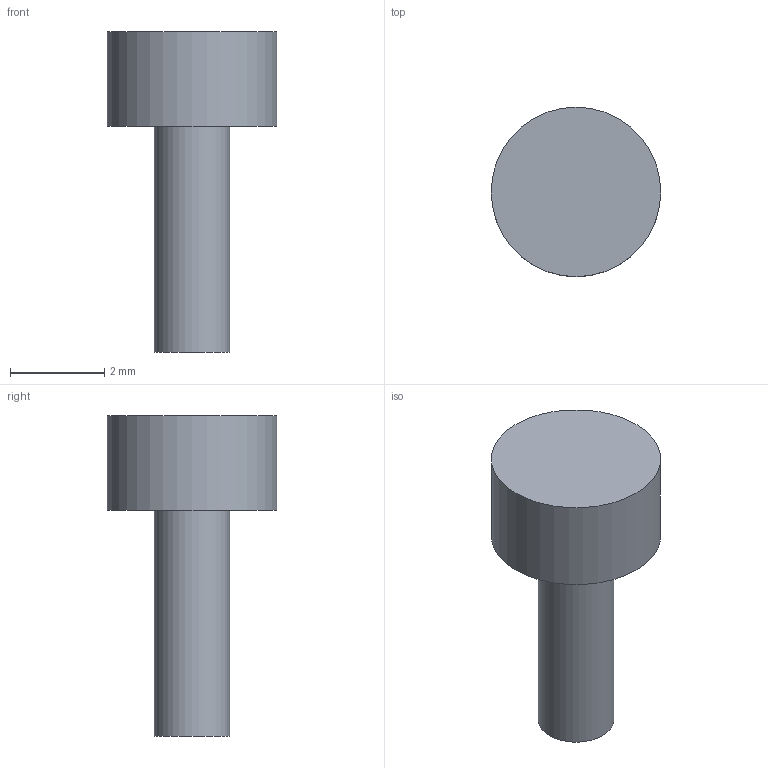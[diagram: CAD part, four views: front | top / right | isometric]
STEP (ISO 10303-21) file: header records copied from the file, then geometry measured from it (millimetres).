
FILE_DESCRIPTION(('Open CASCADE Model'),'2;1');
FILE_NAME('Open CASCADE Shape Model','2026-09-24T02:53:19',('Author'),( 'Open CASCADE'),'Open CASCADE STEP processor 7.8','Open CASCADE 7.8' ,'Unknown');
FILE_SCHEMA(('AUTOMOTIVE_DESIGN { 1 0 10303 214 1 1 1 1 }'));
Length unit declared in the file: millimetre
Products named in the file (1): Open CASCADE STEP translator 7.8 6
Bounding box: 3.6 x 3.6 x 6.8 mm (x, y, z)
Volume: 30 mm3; surface area: 67.1 mm2
Topology: 1 solids, 1 shells, 5 faces, 6 edges, 4 vertices
Faces by surface type: plane 3, cylinder 2
Full cylindrical faces by diameter (mm): 1.6 x1, 3.6 x1
Entity records: 192 total; most frequent: DIRECTION 34, CARTESIAN_POINT 28, ORIENTED_EDGE 12, PCURVE 12, DEFINITIONAL_REPRESENTATION 12, AXIS2_PLACEMENT_3D 10, LINE 10, VECTOR 10
